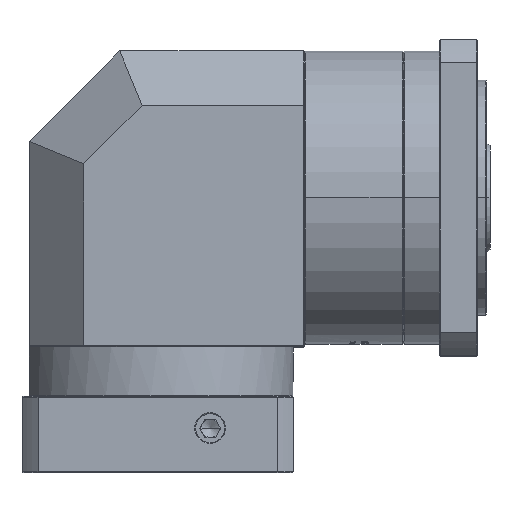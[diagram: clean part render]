
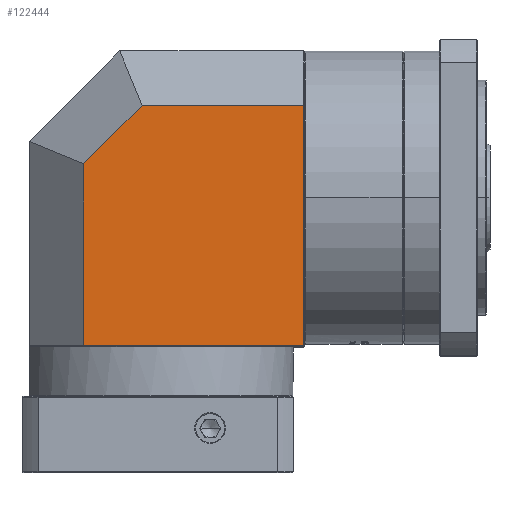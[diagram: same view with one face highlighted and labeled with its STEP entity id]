
A CAD part, top view. The second image highlights one B-rep face of the part: STEP entity #122444.
In plain terms, the highlighted planar face has unit normal (0, 0, 1).
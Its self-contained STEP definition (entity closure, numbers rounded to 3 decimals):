
#3164 = LINE ( 'NONE', #39836, #62131 ) ;
#3204 = LINE ( 'NONE', #55844, #135955 ) ;
#3296 = LINE ( 'NONE', #26053, #22905 ) ;
#3497 = ORIENTED_EDGE ( 'NONE', *, *, #92202, .T. ) ;
#6648 = CARTESIAN_POINT ( 'NONE',  ( -25.715, -123.438, 351.969 ) ) ;
#11607 = CARTESIAN_POINT ( 'NONE',  ( -71.815, -22.864, 351.969 ) ) ;
#14527 = EDGE_LOOP ( 'NONE', ( #3497, #71850, #47548, #68231, #111353 ) ) ;
#17006 = CARTESIAN_POINT ( 'NONE',  ( 49.885, 9.562, 351.969 ) ) ;
#22905 = VECTOR ( 'NONE', #131935, 1000. ) ;
#24655 = EDGE_CURVE ( 'NONE', #31704, #94238, #24828, .T. ) ;
#24828 = LINE ( 'NONE', #123231, #120064 ) ;
#26053 = CARTESIAN_POINT ( 'NONE',  ( -71.815, -42.188, 351.969 ) ) ;
#31704 = VERTEX_POINT ( 'NONE', #83570 ) ;
#33273 = CARTESIAN_POINT ( 'NONE',  ( 49.885, -123.438, 351.969 ) ) ;
#39836 = CARTESIAN_POINT ( 'NONE',  ( 49.885, -42.188, 351.969 ) ) ;
#47548 = ORIENTED_EDGE ( 'NONE', *, *, #24655, .F. ) ;
#51399 = DIRECTION ( 'NONE',  ( 0., -1., 0. ) ) ;
#53568 = VERTEX_POINT ( 'NONE', #33273 ) ;
#55844 = CARTESIAN_POINT ( 'NONE',  ( -39.389, 9.562, 351.969 ) ) ;
#61573 = PLANE ( 'NONE',  #82451 ) ;
#62131 = VECTOR ( 'NONE', #51399, 1000. ) ;
#67742 = CARTESIAN_POINT ( 'NONE',  ( -71.815, -123.438, 351.969 ) ) ;
#68231 = ORIENTED_EDGE ( 'NONE', *, *, #82381, .T. ) ;
#70335 = LINE ( 'NONE', #6648, #127788 ) ;
#71850 = ORIENTED_EDGE ( 'NONE', *, *, #91275, .F. ) ;
#73752 = DIRECTION ( 'NONE',  ( 1., 0., 0. ) ) ;
#82381 = EDGE_CURVE ( 'NONE', #31704, #89949, #3204, .T. ) ;
#82451 = AXIS2_PLACEMENT_3D ( 'NONE', #95826, #95323, #84270 ) ;
#83570 = CARTESIAN_POINT ( 'NONE',  ( -39.389, 9.562, 351.969 ) ) ;
#84270 = DIRECTION ( 'NONE',  ( 1., 0., 0. ) ) ;
#89949 = VERTEX_POINT ( 'NONE', #11607 ) ;
#91275 = EDGE_CURVE ( 'NONE', #94238, #53568, #3164, .T. ) ;
#92202 = EDGE_CURVE ( 'NONE', #110151, #53568, #70335, .T. ) ;
#94238 = VERTEX_POINT ( 'NONE', #17006 ) ;
#95323 = DIRECTION ( 'NONE',  ( 0., 0., 1. ) ) ;
#95826 = CARTESIAN_POINT ( 'NONE',  ( -25.715, -42.188, 351.969 ) ) ;
#96384 = EDGE_CURVE ( 'NONE', #89949, #110151, #3296, .T. ) ;
#100695 = DIRECTION ( 'NONE',  ( 1., 0., 0. ) ) ;
#107110 = FACE_OUTER_BOUND ( 'NONE', #14527, .T. ) ;
#110151 = VERTEX_POINT ( 'NONE', #67742 ) ;
#111353 = ORIENTED_EDGE ( 'NONE', *, *, #96384, .T. ) ;
#120064 = VECTOR ( 'NONE', #100695, 1000. ) ;
#122444 = ADVANCED_FACE ( 'NONE', ( #107110 ), #61573, .T. ) ;
#123231 = CARTESIAN_POINT ( 'NONE',  ( -25.715, 9.562, 351.969 ) ) ;
#127788 = VECTOR ( 'NONE', #73752, 1000. ) ;
#131935 = DIRECTION ( 'NONE',  ( 0., -1., 0. ) ) ;
#135712 = DIRECTION ( 'NONE',  ( -0.707, -0.707, 0. ) ) ;
#135955 = VECTOR ( 'NONE', #135712, 1000. ) ;
